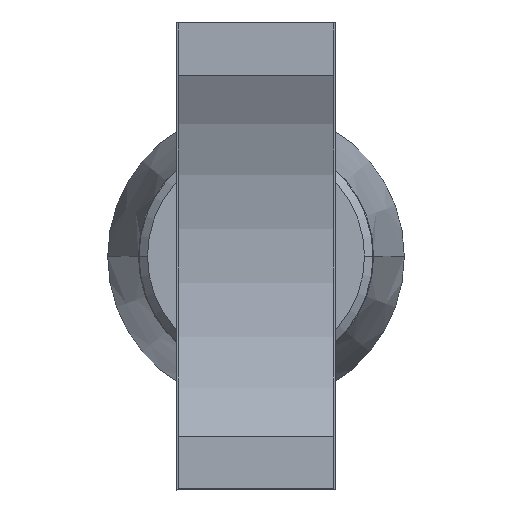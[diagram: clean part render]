
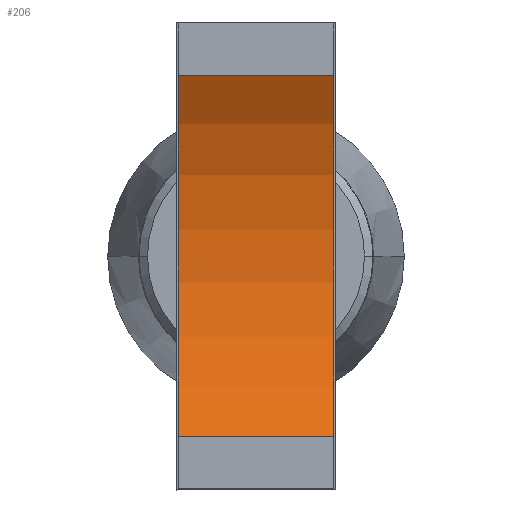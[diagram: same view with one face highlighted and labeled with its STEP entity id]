
A CAD part, top view. The second image highlights one B-rep face of the part: STEP entity #206.
In plain terms, the highlighted cylindrical face has radius 161.95 mm (diameter 323.9 mm), a partial arc.
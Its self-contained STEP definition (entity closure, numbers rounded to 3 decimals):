
#206=ADVANCED_FACE('',(#505),#506,.F.);
#505=FACE_OUTER_BOUND('',#935,.T.);
#506=CYLINDRICAL_SURFACE('',#936,161.95);
#935=EDGE_LOOP('',(#1339,#1340,#1341,#1342));
#936=AXIS2_PLACEMENT_3D('',#1343,#1344,#1345);
#1339=ORIENTED_EDGE('',*,*,#2472,.T.);
#1340=ORIENTED_EDGE('',*,*,#2473,.F.);
#1341=ORIENTED_EDGE('',*,*,#2474,.T.);
#1342=ORIENTED_EDGE('',*,*,#2469,.T.);
#1343=CARTESIAN_POINT('',(468.702,486.997,158.975));
#1344=DIRECTION('',(-1.0,0.,0.));
#1345=DIRECTION('',(0.,-1.0,0.));
#2469=EDGE_CURVE('',#2920,#2918,#2921,.T.);
#2472=EDGE_CURVE('',#2918,#2924,#2925,.T.);
#2473=EDGE_CURVE('',#2926,#2924,#2927,.T.);
#2474=EDGE_CURVE('',#2926,#2920,#2928,.T.);
#2918=VERTEX_POINT('',#3570);
#2920=VERTEX_POINT('',#3573);
#2921=LINE('',#3574,#3575);
#2924=VERTEX_POINT('',#3579);
#2925=CIRCLE('',#3580,161.95);
#2926=VERTEX_POINT('',#3581);
#2927=LINE('',#3582,#3583);
#2928=CIRCLE('',#3584,161.95);
#3570=CARTESIAN_POINT('',(395.702,571.836,21.025));
#3573=CARTESIAN_POINT('',(468.702,571.836,21.025));
#3574=CARTESIAN_POINT('',(468.702,571.836,21.025));
#3575=VECTOR('',#5125,1.0);
#3579=CARTESIAN_POINT('',(395.702,402.159,21.025));
#3580=AXIS2_PLACEMENT_3D('',#5127,#5128,#5129);
#3581=CARTESIAN_POINT('',(468.702,402.159,21.025));
#3582=CARTESIAN_POINT('',(468.702,402.159,21.025));
#3583=VECTOR('',#5130,1.0);
#3584=AXIS2_PLACEMENT_3D('',#5131,#5132,#5133);
#5125=DIRECTION('',(-1.0,0.,0.));
#5127=CARTESIAN_POINT('',(395.702,486.997,158.975));
#5128=DIRECTION('',(-1.0,0.,0.));
#5129=DIRECTION('',(0.,-1.0,0.));
#5130=DIRECTION('',(-1.0,0.,0.));
#5131=CARTESIAN_POINT('',(468.702,486.997,158.975));
#5132=DIRECTION('',(1.0,0.,0.));
#5133=DIRECTION('',(0.,-1.0,0.));
